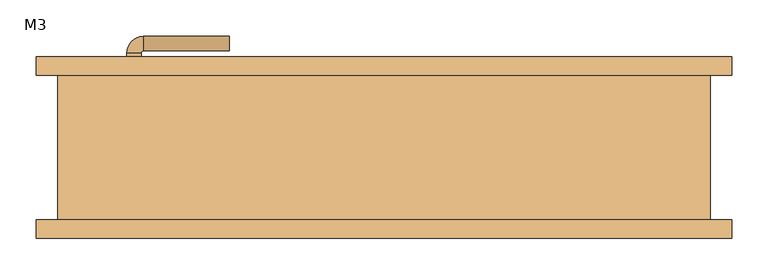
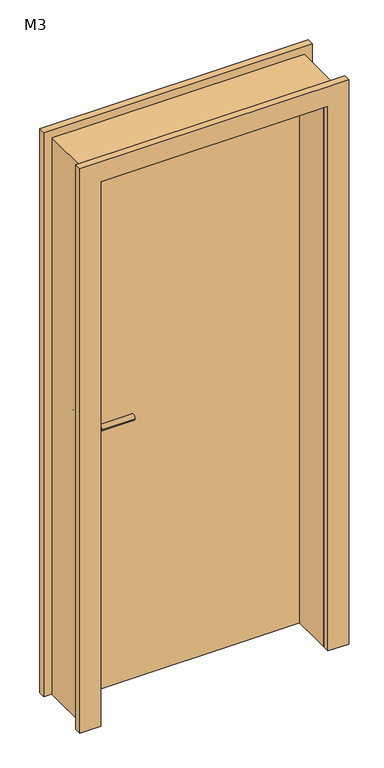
"""IFC4 building model written with IfcOpenShell, lengths in millimetres: door geometry, 单嵌板木门 1 : M3."""

from ifc_helpers import new_model, si_unit, point, frame, frame_2d, origin, origin_with_axes, place, context, project, spatial, polyline, circle_curve, ellipse_curve, trimmed, segment, composite_curve, outline, extrude, source, transform, mapped, element, save
from ifc_brep_helpers import plane_surface, cylinder_surface, revolved_surface, advanced_brep


def m3_482f5408(model_context):
    return source(origin(), model_context, "Body", "SolidModel", [
        extrude(outline(composite_curve([segment(trimmed(circle_curve(frame_2d((900.0, -345.0)), 25.0), [point((900.0, -320.0))], [point((900.0, -370.0))], False, "CARTESIAN"), True, "CONTINUOUS"), segment(trimmed(circle_curve(frame_2d((900.0, -345.0)), 25.0), [point((900.0, -370.0))], [point((900.0, -320.0))], False, "CARTESIAN"), True, "CONTINUOUS")], self_intersect=False)), frame((0.0, 40.0, 0.0), z_axis=(0.0, 1.0, 0.0), x_axis=(0.0, 0.0, 1.0)), (0.0, 0.0, 1.0), 10.0),
        extrude(outline(composite_curve([segment(trimmed(circle_curve(frame_2d((900.0, -345.0)), 25.0), [point((900.0, -320.0))], [point((900.0, -370.0))], False, "CARTESIAN"), True, "CONTINUOUS"), segment(trimmed(circle_curve(frame_2d((900.0, -345.0)), 25.0), [point((900.0, -370.0))], [point((900.0, -320.0))], False, "CARTESIAN"), True, "CONTINUOUS")], self_intersect=False)), frame((0.0, 100.0, 0.0), z_axis=(0.0, 1.0, 0.0), x_axis=(0.0, 0.0, 1.0)), (0.0, 0.0, 1.0), 10.0),
        advanced_brep(
        [(-355.0, 40.0, 1020.0), (-335.0, 40.0, 1020.0), (-335.0, 19.386645, 1020.0), (-355.0, 19.386645, 1020.0), (-213.419036, -3.580964, 1020.0), (-213.419036, 16.419036, 1020.0), (-332.0323911, 16.419036, 1020.0), (-332.0323911, -3.580964, 1020.0)],
        [
            (0, 1, circle_curve(frame((-345.0, 40.0, 1020.0), z_axis=(0.0, 1.0, 0.0), x_axis=(1.0, 0.0, 0.0)), 10.0)),
            (1, 0, circle_curve(frame((-345.0, 40.0, 1020.0), z_axis=(0.0, 1.0, 0.0), x_axis=(1.0, 0.0, 0.0)), 10.0)),
            (1, 2),
            (2, 3, circle_curve(frame((-345.0, 19.386645, 1020.0), z_axis=(0.0, 1.0, 0.0), x_axis=(1.0, 0.0, 0.0)), 10.0)),
            (3, 0),
            (3, 2, circle_curve(frame((-345.0, 19.386645, 1020.0), z_axis=(0.0, 1.0, 0.0), x_axis=(1.0, 0.0, 0.0)), 10.0)),
            (4, 5, circle_curve(frame((-213.419036, 6.419036, 1020.0), z_axis=(1.0, 0.0, 0.0), x_axis=(0.0, 1.0, 0.0)), 10.0)),
            (5, 4, circle_curve(frame((-213.419036, 6.419036, 1020.0), z_axis=(1.0, 0.0, 0.0), x_axis=(0.0, 1.0, 0.0)), 10.0)),
            (6, 2, circle_curve(frame((-332.0323911, 19.386645, 1020.0), z_axis=(0.0, 0.0, -1.0), x_axis=(-1.0, 0.0, 0.0)), 2.9676089)),
            (3, 7, circle_curve(frame((-332.0323911, 19.386645, 1020.0), z_axis=(0.0, 0.0, 1.0), x_axis=(-1.0, 0.0, 0.0)), 22.9676089)),
            (7, 6, circle_curve(frame((-332.0323911, 6.419036, 1020.0), z_axis=(-1.0, 0.0, 0.0), x_axis=(0.0, 1.0, 0.0)), 10.0)),
            (6, 7, circle_curve(frame((-332.0323911, 6.419036, 1020.0), z_axis=(-1.0, 0.0, 0.0), x_axis=(0.0, 1.0, 0.0)), 10.0)),
            (7, 4),
            (5, 6),
        ],
        [
            plane_surface(frame((-345.0, 40.0, 900.0), z_axis=(0.0, 1.0, 0.0), x_axis=(0.0, 0.0, 1.0))),
            cylinder_surface(frame((-345.0, 40.0, 1020.0), z_axis=(0.0, 1.0, 0.0), x_axis=(1.0, 0.0, 0.0)), 10.0),
            plane_surface(frame((-213.419036, 6.419036, 900.0), z_axis=(1.0, 0.0, 0.0), x_axis=(0.0, 0.0, 1.0))),
            revolved_surface(trimmed(ellipse_curve(frame((-345.0, 19.386645, 1020.0), z_axis=(0.0, 1.0, 0.0), x_axis=(1.0, 0.0, 0.0)), 10.0, 10.0), [point((-355.0, 19.386645, 1020.0))], [point((-335.0, 19.386645, 1020.0))], True, "CARTESIAN"), (-332.0323911, 19.386645, 900.0), (0.0, 0.0, 1.0)),
            revolved_surface(trimmed(ellipse_curve(frame((-345.0, 19.386645, 1020.0), z_axis=(0.0, 1.0, 0.0), x_axis=(1.0, 0.0, 0.0)), 10.0, 10.0), [point((-335.0, 19.386645, 1020.0))], [point((-355.0, 19.386645, 1020.0))], True, "CARTESIAN"), (-332.0323911, 19.386645, 900.0), (0.0, 0.0, 1.0)),
            cylinder_surface(frame((-332.0323911, 6.419036, 1020.0), z_axis=(-1.0, 0.0, 0.0), x_axis=(0.0, 1.0, 0.0)), 10.0),
        ],
        [
            (0, [[1, 2]]),
            (1, [[-2, 3, 4, 5]]),
            (1, [[-1, -5, 6, -3]]),
            (2, [[7, 8]]),
            (3, [[9, -6, 10, 11]]),
            (4, [[-10, -4, -9, 12]]),
            (5, [[-11, 13, -8, 14]]),
            (5, [[-12, -14, -7, -13]]),
        ],
    ),
        extrude(outline(composite_curve([segment(trimmed(circle_curve(frame_2d((1020.0, -345.0)), 25.0), [point((1020.0, -320.0))], [point((1020.0, -370.0))], False, "CARTESIAN"), True, "CONTINUOUS"), segment(trimmed(circle_curve(frame_2d((1020.0, -345.0)), 25.0), [point((1020.0, -370.0))], [point((1020.0, -320.0))], False, "CARTESIAN"), True, "CONTINUOUS")], self_intersect=False)), frame((0.0, 40.0, 0.0), z_axis=(0.0, 1.0, 0.0), x_axis=(0.0, 0.0, 1.0)), (0.0, 0.0, 1.0), 10.0),
        advanced_brep(
        [(-335.0, 110.0, 1020.0), (-355.0, 110.0, 1020.0), (-335.0, 130.6133551, 1020.0), (-355.0, 130.6133551, 1020.0), (-213.419036, 133.580964, 1020.0), (-213.419036, 153.580964, 1020.0), (-332.0323911, 153.580964, 1020.0), (-332.0323911, 133.580964, 1020.0)],
        [
            (0, 1, circle_curve(frame((-345.0, 110.0, 1020.0), z_axis=(0.0, -1.0, 0.0), x_axis=(-1.0, 0.0, 0.0)), 10.0)),
            (1, 0, circle_curve(frame((-345.0, 110.0, 1020.0), z_axis=(0.0, -1.0, 0.0), x_axis=(-1.0, 0.0, 0.0)), 10.0)),
            (0, 2),
            (2, 3, circle_curve(frame((-345.0, 130.6133551, 1020.0), z_axis=(0.0, -1.0, 0.0), x_axis=(-1.0, 0.0, 0.0)), 10.0)),
            (3, 1),
            (3, 2, circle_curve(frame((-345.0, 130.6133551, 1020.0), z_axis=(0.0, -1.0, 0.0), x_axis=(-1.0, 0.0, 0.0)), 10.0)),
            (4, 5, circle_curve(frame((-213.419036, 143.580964, 1020.0), z_axis=(1.0, 0.0, 0.0), x_axis=(0.0, 1.0, 0.0)), 10.0)),
            (5, 4, circle_curve(frame((-213.419036, 143.580964, 1020.0), z_axis=(1.0, 0.0, 0.0), x_axis=(0.0, 1.0, 0.0)), 10.0)),
            (6, 3, circle_curve(frame((-332.0323911, 130.6133551, 1020.0), z_axis=(0.0, 0.0, 1.0), x_axis=(-1.0, 0.0, 0.0)), 22.9676089)),
            (2, 7, circle_curve(frame((-332.0323911, 130.6133551, 1020.0), z_axis=(0.0, 0.0, -1.0), x_axis=(-1.0, 0.0, 0.0)), 2.9676089)),
            (7, 6, circle_curve(frame((-332.0323911, 143.580964, 1020.0), z_axis=(-1.0, 0.0, 0.0), x_axis=(0.0, 1.0, 0.0)), 10.0)),
            (6, 7, circle_curve(frame((-332.0323911, 143.580964, 1020.0), z_axis=(-1.0, 0.0, 0.0), x_axis=(0.0, 1.0, 0.0)), 10.0)),
            (7, 4),
            (5, 6),
        ],
        [
            plane_surface(frame((-345.0, 110.0, 900.0), z_axis=(0.0, -1.0, 0.0), x_axis=(0.0, 0.0, 1.0))),
            cylinder_surface(frame((-345.0, 110.0, 1020.0), z_axis=(0.0, -1.0, 0.0), x_axis=(-1.0, 0.0, 0.0)), 10.0),
            plane_surface(frame((-213.419036, 143.580964, 900.0), z_axis=(1.0, 0.0, 0.0), x_axis=(0.0, 0.0, 1.0))),
            revolved_surface(trimmed(ellipse_curve(frame((-345.0, 130.6133551, 1020.0), z_axis=(0.0, -1.0, 0.0), x_axis=(-1.0, 0.0, 0.0)), 10.0, 10.0), [point((-335.0, 130.6133551, 1020.0))], [point((-355.0, 130.6133551, 1020.0))], True, "CARTESIAN"), (-332.0323911, 130.6133551, 900.0), (0.0, 0.0, -1.0)),
            revolved_surface(trimmed(ellipse_curve(frame((-345.0, 130.6133551, 1020.0), z_axis=(0.0, -1.0, 0.0), x_axis=(-1.0, 0.0, 0.0)), 10.0, 10.0), [point((-355.0, 130.6133551, 1020.0))], [point((-335.0, 130.6133551, 1020.0))], True, "CARTESIAN"), (-332.0323911, 130.6133551, 900.0), (0.0, 0.0, -1.0)),
            cylinder_surface(frame((-332.0323911, 143.580964, 1020.0), z_axis=(-1.0, 0.0, 0.0), x_axis=(0.0, 1.0, 0.0)), 10.0),
        ],
        [
            (0, [[1, 2]]),
            (1, [[-1, 3, 4, 5]]),
            (1, [[-2, -5, 6, -3]]),
            (2, [[7, 8]]),
            (3, [[9, -4, 10, 11]]),
            (4, [[-10, -6, -9, 12]]),
            (5, [[-11, 13, -8, 14]]),
            (5, [[-12, -14, -7, -13]]),
        ],
    ),
        extrude(outline(composite_curve([segment(trimmed(circle_curve(frame_2d((1020.0, -345.0)), 25.0), [point((1020.0, -320.0))], [point((1020.0, -370.0))], False, "CARTESIAN"), True, "CONTINUOUS"), segment(trimmed(circle_curve(frame_2d((1020.0, -345.0)), 25.0), [point((1020.0, -370.0))], [point((1020.0, -320.0))], False, "CARTESIAN"), True, "CONTINUOUS")], self_intersect=False)), frame((0.0, 100.0, 0.0), z_axis=(0.0, 1.0, 0.0), x_axis=(0.0, 0.0, 1.0)), (0.0, 0.0, 1.0), 10.0),
        extrude(outline(polyline([(0.0, 480.0), (2130.0, 480.0), (2130.0, -480.0), (0.0, -480.0), (0.0, -405.0), (2055.0, -405.0), (2055.0, 405.0), (0.0, 405.0), (0.0, 480.0)])), frame((0.0, 100.0, 0.0), z_axis=(0.0, 1.0, 0.0), x_axis=(0.0, 0.0, 1.0)), (0.0, 0.0, 1.0), 25.0),
        extrude(outline(polyline([(2130.0, 480.0), (2130.0, -480.0), (0.0, -480.0), (0.0, -405.0), (2055.0, -405.0), (2055.0, 405.0), (0.0, 405.0), (0.0, 480.0), (2130.0, 480.0)])), frame((0.0, -125.0, 0.0), z_axis=(0.0, 1.0, 0.0), x_axis=(0.0, 0.0, 1.0)), (0.0, 0.0, 1.0), 25.0),
        extrude(outline(polyline([(405.0, 50.0), (-405.0, 50.0), (-405.0, 100.0), (405.0, 100.0), (405.0, 50.0)])), origin_with_axes(), (0.0, 0.0, 1.0), 2055.0),
        extrude(outline(polyline([(2100.0, -450.0), (0.0, -450.0), (0.0, -405.0), (2055.0, -405.0), (2055.0, 405.0), (0.0, 405.0), (0.0, 450.0), (2100.0, 450.0), (2100.0, -450.0)])), frame((0.0, -100.0, 0.0), z_axis=(0.0, 1.0, 0.0), x_axis=(0.0, 0.0, 1.0)), (0.0, 0.0, 1.0), 200.0),
    ])


if __name__ == "__main__":
    model = new_model("IFC4")
    model_context = context("Model", 3, world=origin())
    ifc_project = project(units=[si_unit("LENGTHUNIT", "METRE", prefix="MILLI")], contexts=[model_context])
    site = spatial("IfcSite", under=ifc_project)
    building = spatial("IfcBuilding", under=site)
    placement = place(None, origin())
    m3_shape = m3_482f5408(model_context)
    element("IfcDoor", 1, ObjectType="单嵌板木门 1 : M3", at=placement, inside=building, context=model_context, shape_type="MappedRepresentation", body=[
        mapped(m3_shape, transform((0.0, 0.0, 0.0), x_axis=(1.0, 0.0, 0.0), y_axis=(0.0, 1.0, 0.0), z_axis=(0.0, 0.0, 1.0))),
    ])
    save(model, "model.ifc")
